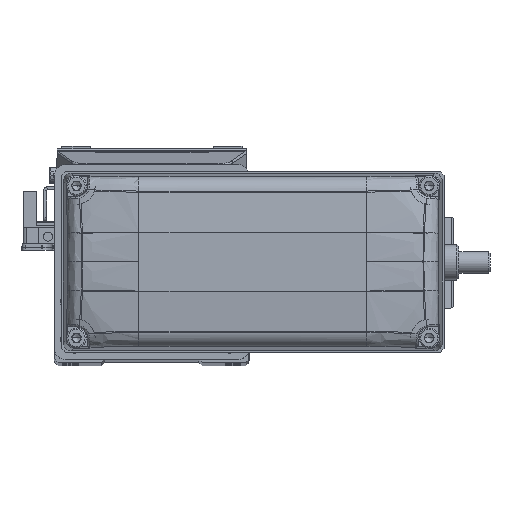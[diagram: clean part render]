
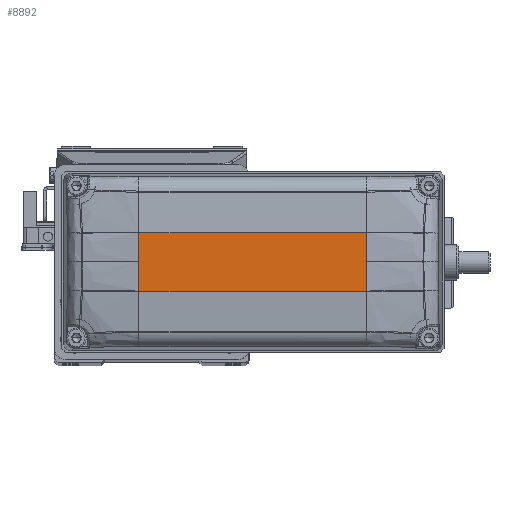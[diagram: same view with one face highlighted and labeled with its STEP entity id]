
A CAD part, top view. The second image highlights one B-rep face of the part: STEP entity #8892.
In plain terms, the highlighted planar face has unit normal (0, 0, 1).
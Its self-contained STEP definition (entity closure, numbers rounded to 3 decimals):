
#86 = CARTESIAN_POINT ( 'NONE',  ( 53.44, 35.9, 689.9 ) ) ;
#221 = LINE ( 'NONE', #6504, #46045 ) ;
#1072 = CARTESIAN_POINT ( 'NONE',  ( 53.44, 19.7, 689.9 ) ) ;
#2191 = CARTESIAN_POINT ( 'NONE',  ( 53.44, 19.7, 689.9 ) ) ;
#2687 = DIRECTION ( 'NONE',  ( 1., 0., 0. ) ) ;
#5721 = VECTOR ( 'NONE', #27641, 1000. ) ;
#6212 = DIRECTION ( 'NONE',  ( 0., -1., 0. ) ) ;
#6504 = CARTESIAN_POINT ( 'NONE',  ( 21.74, 35.9, 689.9 ) ) ;
#8840 = CARTESIAN_POINT ( 'NONE',  ( 53.44, 27.8, 689.9 ) ) ;
#8892 = ADVANCED_FACE ( 'NONE', ( #9496 ), #38991, .T. ) ;
#9013 = VERTEX_POINT ( 'NONE', #35764 ) ;
#9347 = DIRECTION ( 'NONE',  ( 0., -1., 0. ) ) ;
#9449 = LINE ( 'NONE', #1072, #22972 ) ;
#9496 = FACE_OUTER_BOUND ( 'NONE', #17632, .T. ) ;
#10668 = VERTEX_POINT ( 'NONE', #41019 ) ;
#11180 = VECTOR ( 'NONE', #9347, 1000. ) ;
#12271 = VERTEX_POINT ( 'NONE', #86 ) ;
#13822 = EDGE_CURVE ( 'NONE', #9013, #36413, #24924, .T. ) ;
#14137 = CARTESIAN_POINT ( 'NONE',  ( 53.44, 27.8, 689.9 ) ) ;
#16098 = VECTOR ( 'NONE', #28948, 1000. ) ;
#16570 = ORIENTED_EDGE ( 'NONE', *, *, #23534, .T. ) ;
#16575 = EDGE_CURVE ( 'NONE', #36413, #32741, #9449, .T. ) ;
#17632 = EDGE_LOOP ( 'NONE', ( #20164, #16570, #19371, #23370, #32519, #24495 ) ) ;
#17989 = VERTEX_POINT ( 'NONE', #30338 ) ;
#18801 = EDGE_CURVE ( 'NONE', #32741, #12271, #38159, .T. ) ;
#19277 = EDGE_CURVE ( 'NONE', #10668, #12271, #221, .T. ) ;
#19371 = ORIENTED_EDGE ( 'NONE', *, *, #13822, .T. ) ;
#19919 = CARTESIAN_POINT ( 'NONE',  ( -9.76, 27.8, 689.9 ) ) ;
#20164 = ORIENTED_EDGE ( 'NONE', *, *, #45348, .T. ) ;
#22972 = VECTOR ( 'NONE', #40300, 1000. ) ;
#23370 = ORIENTED_EDGE ( 'NONE', *, *, #16575, .T. ) ;
#23534 = EDGE_CURVE ( 'NONE', #17989, #9013, #27007, .T. ) ;
#24495 = ORIENTED_EDGE ( 'NONE', *, *, #19277, .F. ) ;
#24924 = LINE ( 'NONE', #42650, #5721 ) ;
#27007 = LINE ( 'NONE', #19919, #11180 ) ;
#27641 = DIRECTION ( 'NONE',  ( 1., 0., 0. ) ) ;
#27820 = CARTESIAN_POINT ( 'NONE',  ( -9.759, 35.9, 689.9 ) ) ;
#28948 = DIRECTION ( 'NONE',  ( 0., 1., 0. ) ) ;
#30338 = CARTESIAN_POINT ( 'NONE',  ( -9.76, 27.8, 689.9 ) ) ;
#32146 = CARTESIAN_POINT ( 'NONE',  ( 21.74, 27.8, 689.9 ) ) ;
#32306 = DIRECTION ( 'NONE',  ( 0., 0., 1. ) ) ;
#32519 = ORIENTED_EDGE ( 'NONE', *, *, #18801, .T. ) ;
#32741 = VERTEX_POINT ( 'NONE', #8840 ) ;
#33135 = AXIS2_PLACEMENT_3D ( 'NONE', #32146, #32306, #35799 ) ;
#33859 = LINE ( 'NONE', #27820, #39557 ) ;
#35764 = CARTESIAN_POINT ( 'NONE',  ( -9.759, 19.7, 689.9 ) ) ;
#35799 = DIRECTION ( 'NONE',  ( 1., 0., 0. ) ) ;
#36413 = VERTEX_POINT ( 'NONE', #2191 ) ;
#38159 = LINE ( 'NONE', #14137, #16098 ) ;
#38991 = PLANE ( 'NONE',  #33135 ) ;
#39557 = VECTOR ( 'NONE', #6212, 1000. ) ;
#40300 = DIRECTION ( 'NONE',  ( 0., 1., 0. ) ) ;
#41019 = CARTESIAN_POINT ( 'NONE',  ( -9.759, 35.9, 689.9 ) ) ;
#42650 = CARTESIAN_POINT ( 'NONE',  ( 21.74, 19.7, 689.9 ) ) ;
#45348 = EDGE_CURVE ( 'NONE', #10668, #17989, #33859, .T. ) ;
#46045 = VECTOR ( 'NONE', #2687, 1000. ) ;
